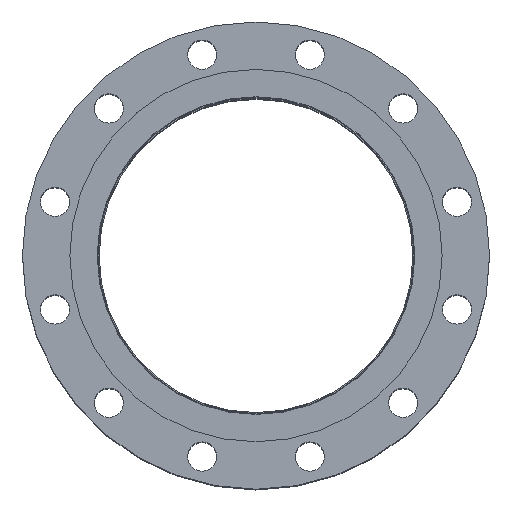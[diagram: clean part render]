
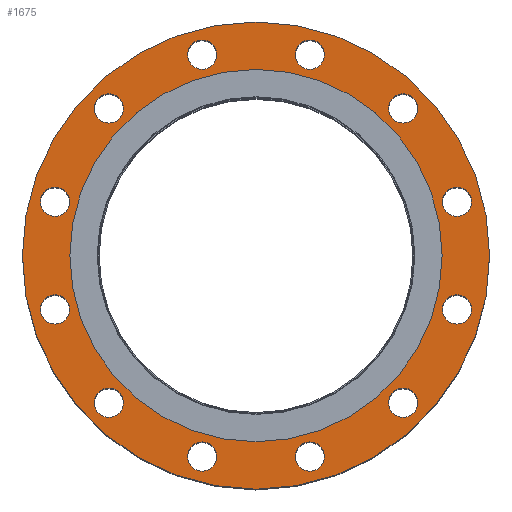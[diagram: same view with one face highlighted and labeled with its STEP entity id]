
A CAD part, top view. The second image highlights one B-rep face of the part: STEP entity #1675.
In plain terms, the highlighted planar face has unit normal (0, 0, 1).
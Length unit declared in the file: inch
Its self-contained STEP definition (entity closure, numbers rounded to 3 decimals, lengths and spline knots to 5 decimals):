
#88=FACE_BOUND('',#431,.T.);
#89=FACE_BOUND('',#432,.T.);
#90=FACE_BOUND('',#433,.T.);
#91=FACE_BOUND('',#434,.T.);
#92=FACE_BOUND('',#435,.T.);
#93=FACE_BOUND('',#436,.T.);
#94=FACE_BOUND('',#437,.T.);
#95=FACE_BOUND('',#438,.T.);
#96=FACE_BOUND('',#439,.T.);
#97=FACE_BOUND('',#440,.T.);
#98=FACE_BOUND('',#441,.T.);
#99=FACE_BOUND('',#442,.T.);
#100=FACE_BOUND('',#443,.T.);
#158=PLANE('',#1892);
#285=FACE_OUTER_BOUND('',#430,.T.);
#430=EDGE_LOOP('',(#1293));
#431=EDGE_LOOP('',(#1294));
#432=EDGE_LOOP('',(#1295));
#433=EDGE_LOOP('',(#1296));
#434=EDGE_LOOP('',(#1297));
#435=EDGE_LOOP('',(#1298));
#436=EDGE_LOOP('',(#1299));
#437=EDGE_LOOP('',(#1300));
#438=EDGE_LOOP('',(#1301));
#439=EDGE_LOOP('',(#1302));
#440=EDGE_LOOP('',(#1303));
#441=EDGE_LOOP('',(#1304));
#442=EDGE_LOOP('',(#1305));
#443=EDGE_LOOP('',(#1306));
#647=CIRCLE('',#1835,0.5);
#649=CIRCLE('',#1838,0.5);
#651=CIRCLE('',#1841,0.5);
#653=CIRCLE('',#1844,0.5);
#655=CIRCLE('',#1847,0.5);
#657=CIRCLE('',#1850,0.5);
#659=CIRCLE('',#1853,0.5);
#661=CIRCLE('',#1856,0.5);
#663=CIRCLE('',#1859,0.5);
#665=CIRCLE('',#1862,0.5);
#667=CIRCLE('',#1865,0.5);
#669=CIRCLE('',#1868,0.5);
#682=CIRCLE('',#1887,6.375);
#684=CIRCLE('',#1891,8.);
#843=VERTEX_POINT('',#2890);
#845=VERTEX_POINT('',#2896);
#847=VERTEX_POINT('',#2902);
#849=VERTEX_POINT('',#2908);
#851=VERTEX_POINT('',#2914);
#853=VERTEX_POINT('',#2920);
#855=VERTEX_POINT('',#2926);
#857=VERTEX_POINT('',#2932);
#859=VERTEX_POINT('',#2938);
#861=VERTEX_POINT('',#2944);
#863=VERTEX_POINT('',#2950);
#865=VERTEX_POINT('',#2956);
#876=VERTEX_POINT('',#2988);
#878=VERTEX_POINT('',#2995);
#987=EDGE_CURVE('',#843,#843,#647,.T.);
#990=EDGE_CURVE('',#845,#845,#649,.T.);
#993=EDGE_CURVE('',#847,#847,#651,.T.);
#996=EDGE_CURVE('',#849,#849,#653,.T.);
#999=EDGE_CURVE('',#851,#851,#655,.T.);
#1002=EDGE_CURVE('',#853,#853,#657,.T.);
#1005=EDGE_CURVE('',#855,#855,#659,.T.);
#1008=EDGE_CURVE('',#857,#857,#661,.T.);
#1011=EDGE_CURVE('',#859,#859,#663,.T.);
#1014=EDGE_CURVE('',#861,#861,#665,.T.);
#1017=EDGE_CURVE('',#863,#863,#667,.T.);
#1020=EDGE_CURVE('',#865,#865,#669,.T.);
#1036=EDGE_CURVE('',#876,#876,#682,.T.);
#1038=EDGE_CURVE('',#878,#878,#684,.T.);
#1293=ORIENTED_EDGE('',*,*,#1038,.T.);
#1294=ORIENTED_EDGE('',*,*,#987,.T.);
#1295=ORIENTED_EDGE('',*,*,#990,.T.);
#1296=ORIENTED_EDGE('',*,*,#993,.T.);
#1297=ORIENTED_EDGE('',*,*,#996,.T.);
#1298=ORIENTED_EDGE('',*,*,#999,.T.);
#1299=ORIENTED_EDGE('',*,*,#1002,.T.);
#1300=ORIENTED_EDGE('',*,*,#1005,.T.);
#1301=ORIENTED_EDGE('',*,*,#1008,.T.);
#1302=ORIENTED_EDGE('',*,*,#1011,.T.);
#1303=ORIENTED_EDGE('',*,*,#1014,.T.);
#1304=ORIENTED_EDGE('',*,*,#1017,.T.);
#1305=ORIENTED_EDGE('',*,*,#1020,.T.);
#1306=ORIENTED_EDGE('',*,*,#1036,.T.);
#1675=ADVANCED_FACE('',(#285,#88,#89,#90,#91,#92,#93,#94,#95,#96,#97,#98,
#99,#100),#158,.T.);
#1835=AXIS2_PLACEMENT_3D('',#2891,#2183,#2184);
#1838=AXIS2_PLACEMENT_3D('',#2897,#2190,#2191);
#1841=AXIS2_PLACEMENT_3D('',#2903,#2197,#2198);
#1844=AXIS2_PLACEMENT_3D('',#2909,#2204,#2205);
#1847=AXIS2_PLACEMENT_3D('',#2915,#2211,#2212);
#1850=AXIS2_PLACEMENT_3D('',#2921,#2218,#2219);
#1853=AXIS2_PLACEMENT_3D('',#2927,#2225,#2226);
#1856=AXIS2_PLACEMENT_3D('',#2933,#2232,#2233);
#1859=AXIS2_PLACEMENT_3D('',#2939,#2239,#2240);
#1862=AXIS2_PLACEMENT_3D('',#2945,#2246,#2247);
#1865=AXIS2_PLACEMENT_3D('',#2951,#2253,#2254);
#1868=AXIS2_PLACEMENT_3D('',#2957,#2260,#2261);
#1887=AXIS2_PLACEMENT_3D('',#2990,#2301,#2302);
#1891=AXIS2_PLACEMENT_3D('',#2996,#2309,#2310);
#1892=AXIS2_PLACEMENT_3D('',#2998,#2312,#2313);
#2183=DIRECTION('center_axis',(0.,0.,-1.));
#2184=DIRECTION('ref_axis',(0.866,-0.5,0.));
#2190=DIRECTION('center_axis',(0.,0.,-1.));
#2191=DIRECTION('ref_axis',(0.5,-0.866,0.));
#2197=DIRECTION('center_axis',(0.,0.,-1.));
#2198=DIRECTION('ref_axis',(0.,-1.,0.));
#2204=DIRECTION('center_axis',(0.,0.,-1.));
#2205=DIRECTION('ref_axis',(-0.5,-0.866,0.));
#2211=DIRECTION('center_axis',(0.,0.,-1.));
#2212=DIRECTION('ref_axis',(-0.866,-0.5,0.));
#2218=DIRECTION('center_axis',(0.,0.,-1.));
#2219=DIRECTION('ref_axis',(-1.,0.,0.));
#2225=DIRECTION('center_axis',(0.,0.,-1.));
#2226=DIRECTION('ref_axis',(-0.866,0.5,0.));
#2232=DIRECTION('center_axis',(0.,0.,-1.));
#2233=DIRECTION('ref_axis',(-0.5,0.866,0.));
#2239=DIRECTION('center_axis',(0.,0.,-1.));
#2240=DIRECTION('ref_axis',(0.,1.,0.));
#2246=DIRECTION('center_axis',(0.,0.,-1.));
#2247=DIRECTION('ref_axis',(0.5,0.866,0.));
#2253=DIRECTION('center_axis',(0.,0.,-1.));
#2254=DIRECTION('ref_axis',(0.866,0.5,0.));
#2260=DIRECTION('center_axis',(0.,0.,-1.));
#2261=DIRECTION('ref_axis',(1.,0.,0.));
#2301=DIRECTION('center_axis',(0.,0.,-1.));
#2302=DIRECTION('ref_axis',(0.,1.,0.));
#2309=DIRECTION('center_axis',(0.,0.,1.));
#2310=DIRECTION('ref_axis',(1.,0.,0.));
#2312=DIRECTION('center_axis',(0.,0.,1.));
#2313=DIRECTION('ref_axis',(1.,0.,0.));
#2890=CARTESIAN_POINT('',(1.41107,7.13222,0.56));
#2891=CARTESIAN_POINT('Origin',(1.84409,6.88222,0.56));
#2896=CARTESIAN_POINT('',(4.78814,5.47115,0.56));
#2897=CARTESIAN_POINT('Origin',(5.03814,5.03814,0.56));
#2902=CARTESIAN_POINT('',(6.88222,2.34409,0.56));
#2903=CARTESIAN_POINT('Origin',(6.88222,1.84409,0.56));
#2908=CARTESIAN_POINT('',(7.13222,-1.41107,0.56));
#2909=CARTESIAN_POINT('Origin',(6.88222,-1.84409,0.56));
#2914=CARTESIAN_POINT('',(5.47115,-4.78814,0.56));
#2915=CARTESIAN_POINT('Origin',(5.03814,-5.03814,0.56));
#2920=CARTESIAN_POINT('',(2.34409,-6.88222,0.56));
#2921=CARTESIAN_POINT('Origin',(1.84409,-6.88222,0.56));
#2926=CARTESIAN_POINT('',(-1.41107,-7.13222,0.56));
#2927=CARTESIAN_POINT('Origin',(-1.84409,-6.88222,0.56));
#2932=CARTESIAN_POINT('',(-4.78814,-5.47115,0.56));
#2933=CARTESIAN_POINT('Origin',(-5.03814,-5.03814,0.56));
#2938=CARTESIAN_POINT('',(-6.88222,-2.34409,0.56));
#2939=CARTESIAN_POINT('Origin',(-6.88222,-1.84409,0.56));
#2944=CARTESIAN_POINT('',(-7.13222,1.41107,0.56));
#2945=CARTESIAN_POINT('Origin',(-6.88222,1.84409,0.56));
#2950=CARTESIAN_POINT('',(-5.47115,4.78814,0.56));
#2951=CARTESIAN_POINT('Origin',(-5.03814,5.03814,0.56));
#2956=CARTESIAN_POINT('',(-2.34409,6.88222,0.56));
#2957=CARTESIAN_POINT('Origin',(-1.84409,6.88222,0.56));
#2988=CARTESIAN_POINT('',(0.,-6.375,0.56));
#2990=CARTESIAN_POINT('Origin',(0.,0.,0.56));
#2995=CARTESIAN_POINT('',(0.,-8.,0.56));
#2996=CARTESIAN_POINT('Origin',(0.,0.,0.56));
#2998=CARTESIAN_POINT('Origin',(0.,5.44,0.56));
